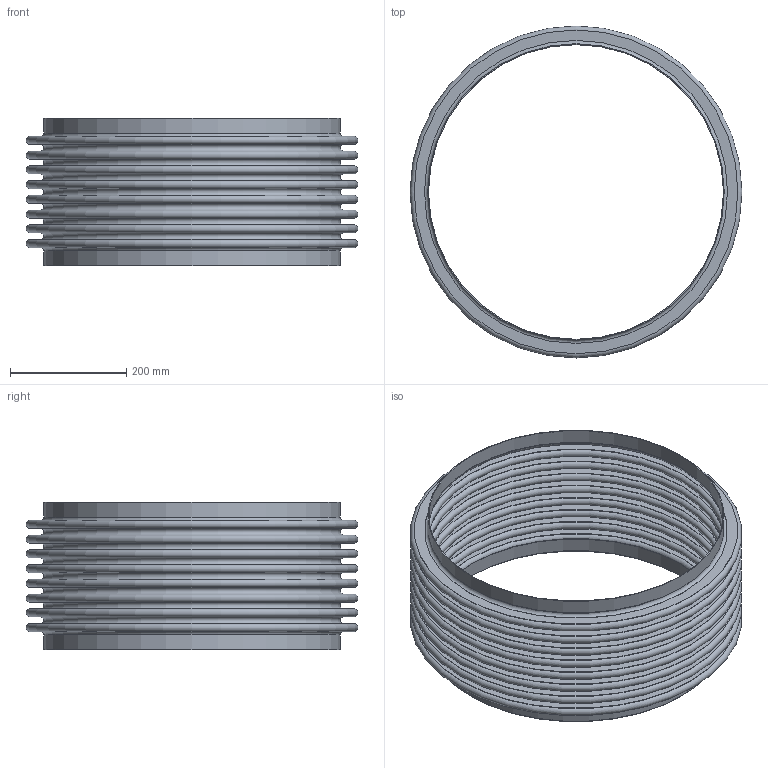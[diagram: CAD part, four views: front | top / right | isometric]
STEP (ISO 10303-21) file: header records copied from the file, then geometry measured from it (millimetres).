
FILE_DESCRIPTION(/* description */ (''),/* implementation_level */ '2;1');
FILE_NAME(/* name */ 'US-20-8-85S.stp',/* time_stamp */ '2026-07-21T11:17:27-05:00',/* author */ ('linda'),/* organization */ (''),/* preprocessor_version */ 'ST-DEVELOPER v20.1',/* originating_system */ 'Autodesk Inventor 2026',/* authorisation */ '');
FILE_SCHEMA (('AUTOMOTIVE_DESIGN { 1 0 10303 214 3 1 1 }'));
Length unit declared in the file: inch
Products named in the file (1): Part3
Bounding box: 571.5 x 571.5 x 254 mm (x, y, z)
Volume: 1348760.5 mm3; surface area: 2224236.2 mm2
Topology: 3 solids, 3 shells, 76 faces, 114 edges, 77 vertices
Faces by surface type: plane 38, torus 34, cylinder 4
Full cylindrical faces by diameter (mm): 508 x2, 510.438 x2
Entity records: 1899 total; most frequent: DIRECTION 378, CARTESIAN_POINT 268, ORIENTED_EDGE 228, AXIS2_PLACEMENT_3D 187, EDGE_LOOP 114, EDGE_CURVE 114, CIRCLE 110, STYLED_ITEM 79
